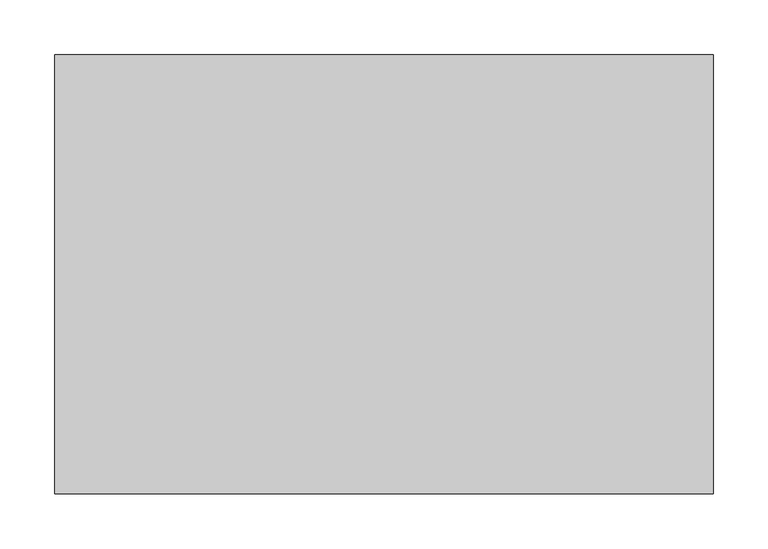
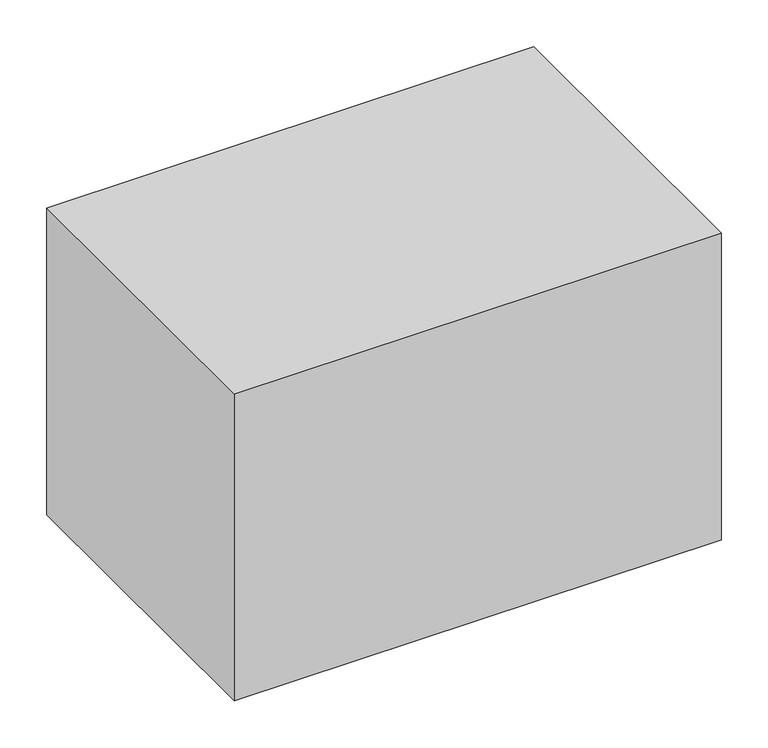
"""IFC4 building model written with IfcOpenShell, lengths in millimetres: proxy geometry, Movél14 : Movél."""

from ifc_helpers import new_model, si_unit, frame, origin, place, context, project, spatial, polyline, outline, extrude, source, transform, mapped, element, save


def generic_models_e34c0230(model_context):
    return source(origin(), model_context, "Body", "SweptSolid", [
        extrude(outline(polyline([(29358.421149, 22026.5765577), (29358.421149, 21626.5765577), (28758.421149, 21626.5765577), (28758.421149, 22026.5765577), (29358.421149, 22026.5765577)])), frame((0.0, 0.0, 400.0), z_axis=(0.0, 0.0, 1.0), x_axis=(1.0, 0.0, 0.0)), (0.0, 0.0, 1.0), 400.0),
    ])


if __name__ == "__main__":
    model = new_model("IFC4")
    model_context = context("Model", 3, world=origin())
    ifc_project = project(units=[si_unit("LENGTHUNIT", "METRE", prefix="MILLI")], contexts=[model_context])
    site = spatial("IfcSite", under=ifc_project)
    building = spatial("IfcBuilding", under=site)
    placement = place(None, origin())
    generic_models_shape = generic_models_e34c0230(model_context)
    element("IfcBuildingElementProxy", 1, Name="Movél14 : Movél", ObjectType="Movél14 : Movél", at=placement, inside=building, context=model_context, shape_type="MappedRepresentation", body=[
        mapped(generic_models_shape, transform((0.0, 0.0, 0.0), x_axis=(1.0, 0.0, 0.0), y_axis=(0.0, 1.0, 0.0), z_axis=(0.0, 0.0, 1.0))),
    ])
    save(model, "model.ifc")
